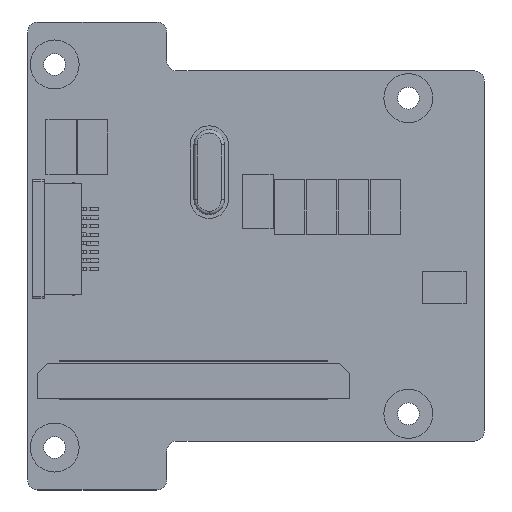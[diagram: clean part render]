
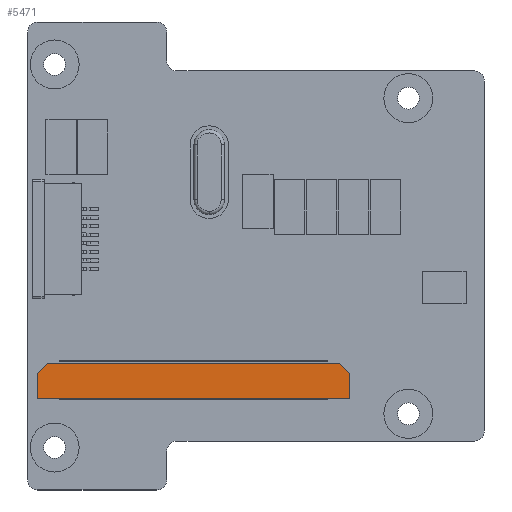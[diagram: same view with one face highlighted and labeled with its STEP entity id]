
A CAD part, top view. The second image highlights one B-rep face of the part: STEP entity #5471.
In plain terms, the highlighted planar face has unit normal (0, 0, 1).
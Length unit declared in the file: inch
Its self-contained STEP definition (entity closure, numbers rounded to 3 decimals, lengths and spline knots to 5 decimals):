
#157 = CARTESIAN_POINT ( 'NONE',  ( -1.75598, -0.65493, 0.16929 ) ) ;
#530 = CARTESIAN_POINT ( 'NONE',  ( -0.36621, -0.49195, 0.16929 ) ) ;
#1529 = DIRECTION ( 'NONE',  ( 0., 1., 0. ) ) ;
#1858 = LINE ( 'NONE', #11675, #9765 ) ;
#1927 = VERTEX_POINT ( 'NONE', #4086 ) ;
#2009 = DIRECTION ( 'NONE',  ( 0., 1., 0. ) ) ;
#2205 = ORIENTED_EDGE ( 'NONE', *, *, #4096, .F. ) ;
#2484 = VECTOR ( 'NONE', #1529, 39.37008 ) ;
#2664 = ORIENTED_EDGE ( 'NONE', *, *, #9369, .F. ) ;
#2720 = CARTESIAN_POINT ( 'NONE',  ( -0.31897, -0.5392, 0.16929 ) ) ;
#2738 = CARTESIAN_POINT ( 'NONE',  ( -1.75598, -0.5392, 0.16929 ) ) ;
#3562 = CARTESIAN_POINT ( 'NONE',  ( -1.75598, -0.65493, 0.16929 ) ) ;
#3635 = VECTOR ( 'NONE', #2009, 39.37008 ) ;
#3840 = DIRECTION ( 'NONE',  ( 0.707, 0.707, 0. ) ) ;
#3912 = DIRECTION ( 'NONE',  ( 0.707, -0.707, 0. ) ) ;
#3981 = LINE ( 'NONE', #7608, #3635 ) ;
#4086 = CARTESIAN_POINT ( 'NONE',  ( -1.75598, -0.5392, 0.16929 ) ) ;
#4096 = EDGE_CURVE ( 'NONE', #13664, #1927, #3981, .T. ) ;
#4399 = ORIENTED_EDGE ( 'NONE', *, *, #13798, .F. ) ;
#4641 = EDGE_CURVE ( 'NONE', #11966, #8815, #1858, .T. ) ;
#4676 = DIRECTION ( 'NONE',  ( 0., 0., -1. ) ) ;
#4867 = EDGE_LOOP ( 'NONE', ( #2205, #13063, #11698, #2664, #6296, #4399 ) ) ;
#5127 = VECTOR ( 'NONE', #3840, 39.37008 ) ;
#5273 = CARTESIAN_POINT ( 'NONE',  ( -0.36621, -0.49195, 0.16929 ) ) ;
#5471 = ADVANCED_FACE ( 'NONE', ( #8283 ), #12504, .F. ) ;
#5634 = VERTEX_POINT ( 'NONE', #2720 ) ;
#6026 = CARTESIAN_POINT ( 'NONE',  ( -0.31897, -0.64943, 0.16929 ) ) ;
#6296 = ORIENTED_EDGE ( 'NONE', *, *, #4641, .F. ) ;
#6892 = DIRECTION ( 'NONE',  ( -1., 0., 0. ) ) ;
#7243 = AXIS2_PLACEMENT_3D ( 'NONE', #11421, #4676, #12554 ) ;
#7300 = CARTESIAN_POINT ( 'NONE',  ( -1.70873, -0.49195, 0.16929 ) ) ;
#7608 = CARTESIAN_POINT ( 'NONE',  ( -1.75598, -0.64943, 0.16929 ) ) ;
#7801 = VECTOR ( 'NONE', #3912, 39.37008 ) ;
#8283 = FACE_OUTER_BOUND ( 'NONE', #4867, .T. ) ;
#8471 = LINE ( 'NONE', #6026, #2484 ) ;
#8815 = VERTEX_POINT ( 'NONE', #5273 ) ;
#9369 = EDGE_CURVE ( 'NONE', #8815, #5634, #14176, .T. ) ;
#9455 = DIRECTION ( 'NONE',  ( 1., 0., 0. ) ) ;
#9765 = VECTOR ( 'NONE', #9455, 39.37008 ) ;
#10024 = VECTOR ( 'NONE', #6892, 39.37008 ) ;
#10369 = LINE ( 'NONE', #157, #10024 ) ;
#11421 = CARTESIAN_POINT ( 'NONE',  ( -1.75598, -0.64943, 0.16929 ) ) ;
#11675 = CARTESIAN_POINT ( 'NONE',  ( -1.70873, -0.49195, 0.16929 ) ) ;
#11698 = ORIENTED_EDGE ( 'NONE', *, *, #13786, .T. ) ;
#11966 = VERTEX_POINT ( 'NONE', #7300 ) ;
#12504 = PLANE ( 'NONE',  #7243 ) ;
#12554 = DIRECTION ( 'NONE',  ( 0., -1., 0. ) ) ;
#13063 = ORIENTED_EDGE ( 'NONE', *, *, #14235, .F. ) ;
#13664 = VERTEX_POINT ( 'NONE', #3562 ) ;
#13786 = EDGE_CURVE ( 'NONE', #14483, #5634, #8471, .T. ) ;
#13798 = EDGE_CURVE ( 'NONE', #1927, #11966, #14135, .T. ) ;
#14135 = LINE ( 'NONE', #2738, #5127 ) ;
#14176 = LINE ( 'NONE', #530, #7801 ) ;
#14235 = EDGE_CURVE ( 'NONE', #14483, #13664, #10369, .T. ) ;
#14483 = VERTEX_POINT ( 'NONE', #14628 ) ;
#14628 = CARTESIAN_POINT ( 'NONE',  ( -0.31897, -0.65493, 0.16929 ) ) ;
